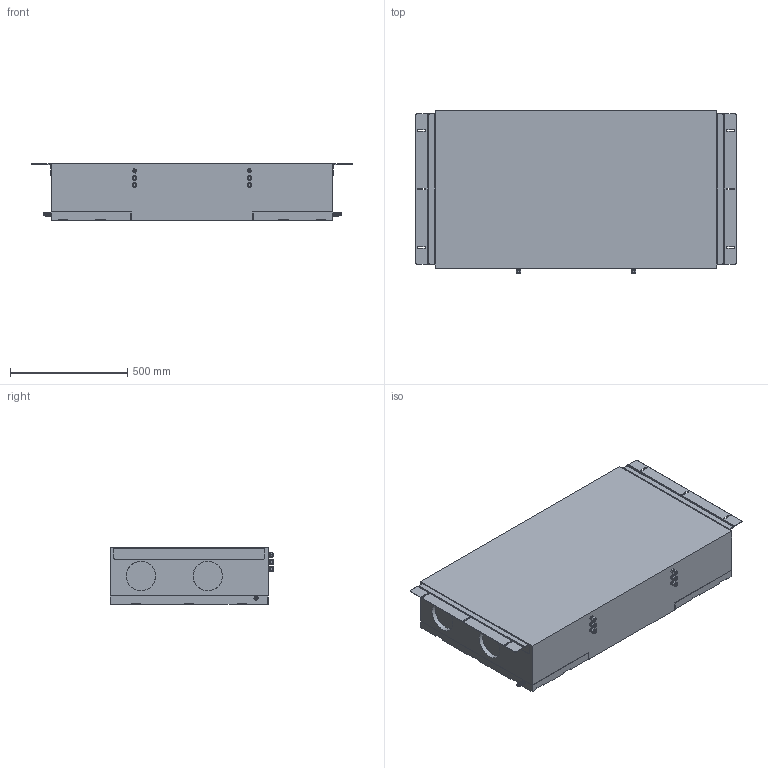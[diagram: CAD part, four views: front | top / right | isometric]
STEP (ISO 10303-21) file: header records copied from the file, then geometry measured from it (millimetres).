
FILE_DESCRIPTION(/* description */ (''),/* implementation_level */ '2;1');
FILE_NAME(/* name */ 'C:\WF Home\Thomas Mønsted\01 - Ventilation\BIM\ECO190\ECO190 - BIM.stp',/* time_stamp */ '2020-05-19T09:25:10+02:00',/* author */ ('3113thmo'),/* organization */ (''),/* preprocessor_version */ 'ST-DEVELOPER v16.13',/* originating_system */ 'Autodesk Inventor 2018',/* authorisation */ '');
FILE_SCHEMA (('AUTOMOTIVE_DESIGN { 1 0 10303 214 3 1 1 }'));
Length unit declared in the file: millimetre
Products named in the file (1): ECO190 - BIM
Bounding box: 1367.18 x 697.2 x 241.7 mm (x, y, z)
Volume: 193206305 mm3; surface area: 2814611.2 mm2
Topology: 1 solids, 1 shells, 1287 faces, 3270 edges, 2026 vertices
Faces by surface type: plane 584, cylinder 434, torus 111, bspline 89, cone 53, sphere 16
Full cylindrical faces by diameter (mm): 8 x2, 10.5 x4, 12 x4, 14 x2, 14.5 x1, 15 x2, 17.5 x4, 19 x4
Entity records: 44349 total; most frequent: CARTESIAN_POINT 12647, DIRECTION 6406, ORIENTED_EDGE 6226, EDGE_CURVE 3101, AXIS2_PLACEMENT_3D 2302, VERTEX_POINT 1993, LINE 1802, VECTOR 1802
